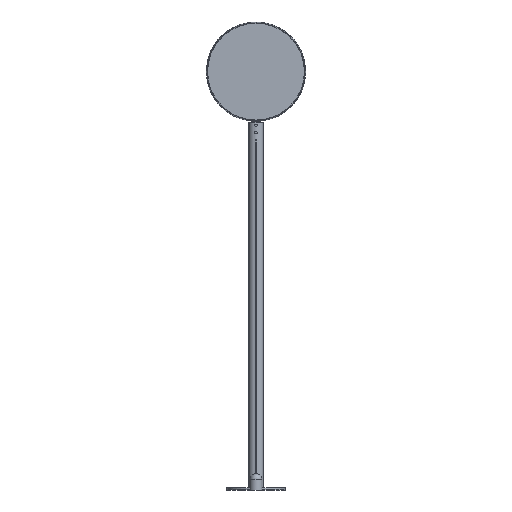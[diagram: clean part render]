
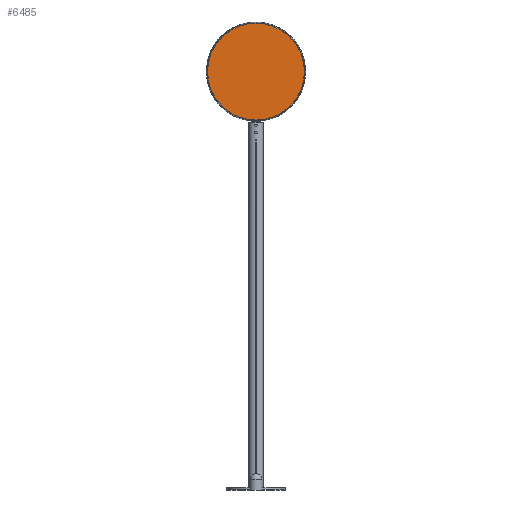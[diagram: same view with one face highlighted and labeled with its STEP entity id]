
A CAD part, front view. The second image highlights one B-rep face of the part: STEP entity #6485.
In plain terms, the highlighted planar face has unit normal (0, -1, 0).
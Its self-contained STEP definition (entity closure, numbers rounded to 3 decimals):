
#5784=CARTESIAN_POINT('',(0.,0.,0.));
#5785=DIRECTION('',(0.,-1.,0.));
#5786=DIRECTION('',(0.,0.,1.));
#5787=AXIS2_PLACEMENT_3D('',#5784,#5785,#5786);
#5789=CARTESIAN_POINT('',(0.,0.,0.));
#5790=DIRECTION('',(0.,-1.,0.));
#5791=DIRECTION('',(0.,0.,-1.));
#5792=AXIS2_PLACEMENT_3D('',#5789,#5790,#5791);
#6430=CARTESIAN_POINT('',(0.,0.,65.903));
#6431=CARTESIAN_POINT('',(0.,0.,-65.903));
#6432=VERTEX_POINT('',#6430);
#6433=VERTEX_POINT('',#6431);
#6474=CARTESIAN_POINT('',(0.,0.,0.));
#6475=DIRECTION('',(0.,1.,0.));
#6476=DIRECTION('',(0.,0.,-1.));
#6477=AXIS2_PLACEMENT_3D('',#6474,#6475,#6476);
#6478=PLANE('',#6477);
#6480=ORIENTED_EDGE('',*,*,#6479,.F.);
#6482=ORIENTED_EDGE('',*,*,#6481,.F.);
#6483=EDGE_LOOP('',(#6480,#6482));
#6484=FACE_OUTER_BOUND('',#6483,.F.);
#6485=ADVANCED_FACE('',(#6484),#6478,.F.);
#5788=CIRCLE('',#5787,65.903);
#5793=CIRCLE('',#5792,65.903);
#6479=EDGE_CURVE('',#6432,#6433,#5788,.T.);
#6481=EDGE_CURVE('',#6433,#6432,#5793,.T.);
